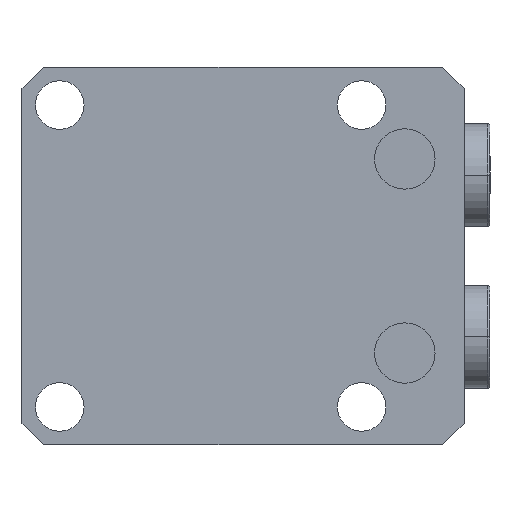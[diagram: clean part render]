
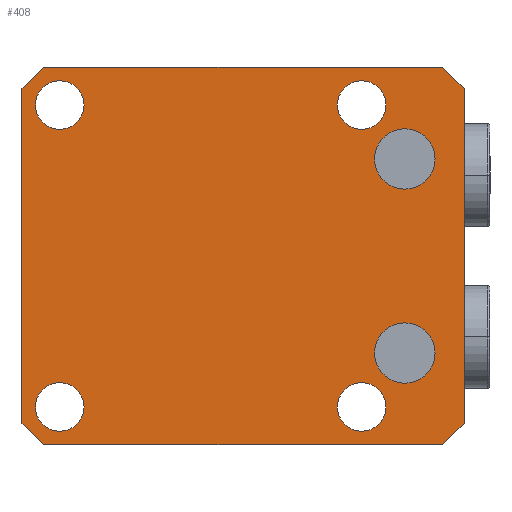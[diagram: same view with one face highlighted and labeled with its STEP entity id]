
A CAD part, front view. The second image highlights one B-rep face of the part: STEP entity #408.
In plain terms, the highlighted planar face has unit normal (0, -1, 0).
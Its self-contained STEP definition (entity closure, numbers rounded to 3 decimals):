
#128=FACE_BOUND('',#981,.T.);
#129=FACE_BOUND('',#982,.T.);
#130=FACE_BOUND('',#983,.T.);
#131=FACE_BOUND('',#984,.T.);
#132=FACE_BOUND('',#985,.T.);
#133=FACE_BOUND('',#986,.T.);
#134=FACE_BOUND('',#987,.T.);
#193=PLANE('',#4374);
#408=ADVANCED_FACE('',(#128,#129,#130,#131,#132,#133,#134),#193,.T.);
#981=EDGE_LOOP('',(#2004,#2005));
#982=EDGE_LOOP('',(#2006,#2007));
#983=EDGE_LOOP('',(#2008,#2009));
#984=EDGE_LOOP('',(#2010,#2011));
#985=EDGE_LOOP('',(#2012,#2013));
#986=EDGE_LOOP('',(#2014,#2015));
#987=EDGE_LOOP('',(#2016,#2017,#2018,#2019,#2020,#2021,#2022,#2023));
#1270=LINE('',#6410,#1565);
#1289=LINE('',#6689,#1584);
#1290=LINE('',#6692,#1585);
#1291=LINE('',#6694,#1586);
#1292=LINE('',#6696,#1587);
#1293=LINE('',#6698,#1588);
#1294=LINE('',#6700,#1589);
#1295=LINE('',#6701,#1590);
#1565=VECTOR('',#4968,1.);
#1584=VECTOR('',#5035,1.);
#1585=VECTOR('',#5036,1.);
#1586=VECTOR('',#5037,1.);
#1587=VECTOR('',#5038,1.);
#1588=VECTOR('',#5039,1.);
#1589=VECTOR('',#5040,1.);
#1590=VECTOR('',#5041,1.);
#2004=ORIENTED_EDGE('',*,*,#3569,.F.);
#2005=ORIENTED_EDGE('',*,*,#3432,.F.);
#2006=ORIENTED_EDGE('',*,*,#3570,.F.);
#2007=ORIENTED_EDGE('',*,*,#3436,.F.);
#2008=ORIENTED_EDGE('',*,*,#3554,.T.);
#2009=ORIENTED_EDGE('',*,*,#3486,.T.);
#2010=ORIENTED_EDGE('',*,*,#3550,.T.);
#2011=ORIENTED_EDGE('',*,*,#3494,.T.);
#2012=ORIENTED_EDGE('',*,*,#3548,.T.);
#2013=ORIENTED_EDGE('',*,*,#3498,.T.);
#2014=ORIENTED_EDGE('',*,*,#3552,.T.);
#2015=ORIENTED_EDGE('',*,*,#3490,.T.);
#2016=ORIENTED_EDGE('',*,*,#3571,.F.);
#2017=ORIENTED_EDGE('',*,*,#3572,.T.);
#2018=ORIENTED_EDGE('',*,*,#3573,.F.);
#2019=ORIENTED_EDGE('',*,*,#3574,.T.);
#2020=ORIENTED_EDGE('',*,*,#3575,.F.);
#2021=ORIENTED_EDGE('',*,*,#3576,.T.);
#2022=ORIENTED_EDGE('',*,*,#3516,.F.);
#2023=ORIENTED_EDGE('',*,*,#3577,.T.);
#3037=VERTEX_POINT('',#6137);
#3038=VERTEX_POINT('',#6139);
#3041=VERTEX_POINT('',#6146);
#3042=VERTEX_POINT('',#6148);
#3086=VERTEX_POINT('',#6329);
#3087=VERTEX_POINT('',#6330);
#3090=VERTEX_POINT('',#6338);
#3091=VERTEX_POINT('',#6339);
#3094=VERTEX_POINT('',#6347);
#3095=VERTEX_POINT('',#6348);
#3098=VERTEX_POINT('',#6356);
#3099=VERTEX_POINT('',#6357);
#3116=VERTEX_POINT('',#6409);
#3117=VERTEX_POINT('',#6411);
#3146=VERTEX_POINT('',#6690);
#3147=VERTEX_POINT('',#6691);
#3148=VERTEX_POINT('',#6693);
#3149=VERTEX_POINT('',#6695);
#3150=VERTEX_POINT('',#6697);
#3151=VERTEX_POINT('',#6699);
#3432=EDGE_CURVE('',#3037,#3038,#4033,.T.);
#3436=EDGE_CURVE('',#3041,#3042,#4035,.T.);
#3486=EDGE_CURVE('',#3086,#3087,#4053,.T.);
#3490=EDGE_CURVE('',#3090,#3091,#4055,.T.);
#3494=EDGE_CURVE('',#3094,#3095,#4057,.T.);
#3498=EDGE_CURVE('',#3098,#3099,#4059,.T.);
#3516=EDGE_CURVE('',#3116,#3117,#1270,.T.);
#3548=EDGE_CURVE('',#3099,#3098,#4067,.T.);
#3550=EDGE_CURVE('',#3095,#3094,#4069,.T.);
#3552=EDGE_CURVE('',#3091,#3090,#4071,.T.);
#3554=EDGE_CURVE('',#3087,#3086,#4073,.T.);
#3569=EDGE_CURVE('',#3038,#3037,#4076,.T.);
#3570=EDGE_CURVE('',#3042,#3041,#4077,.T.);
#3571=EDGE_CURVE('',#3146,#3147,#1289,.T.);
#3572=EDGE_CURVE('',#3146,#3148,#1290,.T.);
#3573=EDGE_CURVE('',#3149,#3148,#1291,.T.);
#3574=EDGE_CURVE('',#3149,#3150,#1292,.T.);
#3575=EDGE_CURVE('',#3151,#3150,#1293,.T.);
#3576=EDGE_CURVE('',#3151,#3117,#1294,.T.);
#3577=EDGE_CURVE('',#3116,#3147,#1295,.T.);
#4033=CIRCLE('',#4300,5.6);
#4035=CIRCLE('',#4303,5.6);
#4053=CIRCLE('',#4333,4.5);
#4055=CIRCLE('',#4336,4.5);
#4057=CIRCLE('',#4339,4.5);
#4059=CIRCLE('',#4342,4.5);
#4067=CIRCLE('',#4358,4.5);
#4069=CIRCLE('',#4361,4.5);
#4071=CIRCLE('',#4364,4.5);
#4073=CIRCLE('',#4367,4.5);
#4076=CIRCLE('',#4372,5.6);
#4077=CIRCLE('',#4373,5.6);
#4300=AXIS2_PLACEMENT_3D('',#6138,#4828,#4829);
#4303=AXIS2_PLACEMENT_3D('',#6147,#4836,#4837);
#4333=AXIS2_PLACEMENT_3D('',#6328,#4916,#4917);
#4336=AXIS2_PLACEMENT_3D('',#6337,#4924,#4925);
#4339=AXIS2_PLACEMENT_3D('',#6346,#4932,#4933);
#4342=AXIS2_PLACEMENT_3D('',#6355,#4940,#4941);
#4358=AXIS2_PLACEMENT_3D('',#6601,#5003,#5004);
#4361=AXIS2_PLACEMENT_3D('',#6604,#5009,#5010);
#4364=AXIS2_PLACEMENT_3D('',#6607,#5015,#5016);
#4367=AXIS2_PLACEMENT_3D('',#6610,#5021,#5022);
#4372=AXIS2_PLACEMENT_3D('',#6687,#5031,#5032);
#4373=AXIS2_PLACEMENT_3D('',#6688,#5033,#5034);
#4374=AXIS2_PLACEMENT_3D('',#6702,#5042,#5043);
#4828=DIRECTION('',(0.,-1.,0.));
#4829=DIRECTION('',(0.,0.,-1.));
#4836=DIRECTION('',(0.,-1.,0.));
#4837=DIRECTION('',(0.,0.,-1.));
#4916=DIRECTION('',(0.,1.,0.));
#4917=DIRECTION('',(0.,0.,-1.));
#4924=DIRECTION('',(0.,1.,0.));
#4925=DIRECTION('',(0.,0.,-1.));
#4932=DIRECTION('',(0.,1.,0.));
#4933=DIRECTION('',(0.,0.,-1.));
#4940=DIRECTION('',(0.,1.,0.));
#4941=DIRECTION('',(0.,0.,-1.));
#4968=DIRECTION('',(-1.,0.,0.));
#5003=DIRECTION('',(0.,1.,0.));
#5004=DIRECTION('',(0.,0.,-1.));
#5009=DIRECTION('',(0.,1.,0.));
#5010=DIRECTION('',(0.,0.,-1.));
#5015=DIRECTION('',(0.,1.,0.));
#5016=DIRECTION('',(0.,0.,-1.));
#5021=DIRECTION('',(0.,1.,0.));
#5022=DIRECTION('',(0.,0.,-1.));
#5031=DIRECTION('',(0.,-1.,0.));
#5032=DIRECTION('',(0.,0.,-1.));
#5033=DIRECTION('',(0.,-1.,0.));
#5034=DIRECTION('',(0.,0.,-1.));
#5035=DIRECTION('',(0.,0.,-1.));
#5036=DIRECTION('',(-0.707,0.,0.707));
#5037=DIRECTION('',(1.,0.,0.));
#5038=DIRECTION('',(-0.707,0.,-0.707));
#5039=DIRECTION('',(0.,0.,1.));
#5040=DIRECTION('',(0.707,0.,-0.707));
#5041=DIRECTION('',(0.707,0.,0.707));
#5042=DIRECTION('',(0.,-1.,0.));
#5043=DIRECTION('',(0.,0.,-1.));
#6137=CARTESIAN_POINT('',(-36.,-83.,-12.4));
#6138=CARTESIAN_POINT('',(-36.,-83.,-18.));
#6139=CARTESIAN_POINT('',(-36.,-83.,-23.6));
#6146=CARTESIAN_POINT('',(-36.,-83.,23.6));
#6147=CARTESIAN_POINT('',(-36.,-83.,18.));
#6148=CARTESIAN_POINT('',(-36.,-83.,12.4));
#6328=CARTESIAN_POINT('',(-28.,-83.,-28.));
#6329=CARTESIAN_POINT('',(-28.,-83.,-32.5));
#6330=CARTESIAN_POINT('',(-28.,-83.,-23.5));
#6337=CARTESIAN_POINT('',(28.,-83.,28.));
#6338=CARTESIAN_POINT('',(28.,-83.,23.5));
#6339=CARTESIAN_POINT('',(28.,-83.,32.5));
#6346=CARTESIAN_POINT('',(-28.,-83.,28.));
#6347=CARTESIAN_POINT('',(-28.,-83.,23.5));
#6348=CARTESIAN_POINT('',(-28.,-83.,32.5));
#6355=CARTESIAN_POINT('',(28.,-83.,-28.));
#6356=CARTESIAN_POINT('',(28.,-83.,-32.5));
#6357=CARTESIAN_POINT('',(28.,-83.,-23.5));
#6409=CARTESIAN_POINT('',(31.,-83.,-35.));
#6410=CARTESIAN_POINT('',(35.,-83.,-35.));
#6411=CARTESIAN_POINT('',(-43.,-83.,-35.));
#6601=CARTESIAN_POINT('',(28.,-83.,-28.));
#6604=CARTESIAN_POINT('',(-28.,-83.,28.));
#6607=CARTESIAN_POINT('',(28.,-83.,28.));
#6610=CARTESIAN_POINT('',(-28.,-83.,-28.));
#6687=CARTESIAN_POINT('',(-36.,-83.,-18.));
#6688=CARTESIAN_POINT('',(-36.,-83.,18.));
#6689=CARTESIAN_POINT('',(35.,-83.,-35.));
#6690=CARTESIAN_POINT('',(35.,-83.,31.));
#6691=CARTESIAN_POINT('',(35.,-83.,-31.));
#6692=CARTESIAN_POINT('',(33.,-83.,33.));
#6693=CARTESIAN_POINT('',(31.,-83.,35.));
#6694=CARTESIAN_POINT('',(35.,-83.,35.));
#6695=CARTESIAN_POINT('',(-43.,-83.,35.));
#6696=CARTESIAN_POINT('',(-4.,-83.,74.));
#6697=CARTESIAN_POINT('',(-47.,-83.,31.));
#6698=CARTESIAN_POINT('',(-47.,-83.,35.));
#6699=CARTESIAN_POINT('',(-47.,-83.,-31.));
#6700=CARTESIAN_POINT('',(-39.,-83.,-39.));
#6701=CARTESIAN_POINT('',(68.,-83.,2.));
#6702=CARTESIAN_POINT('',(35.,-83.,35.));
